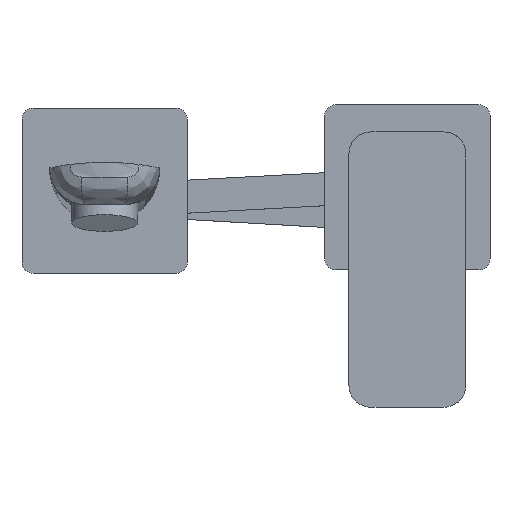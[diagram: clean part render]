
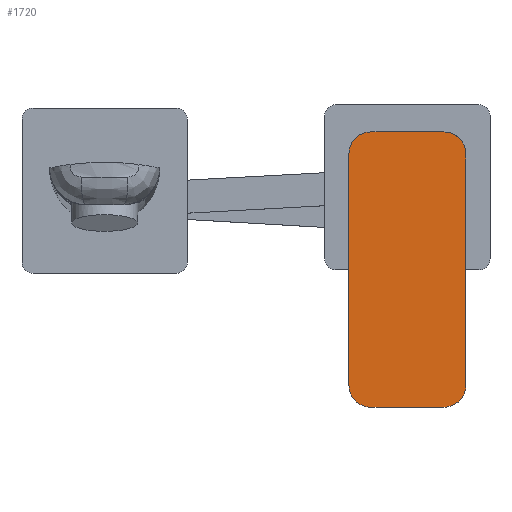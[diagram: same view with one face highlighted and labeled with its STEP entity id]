
A CAD part, top view. The second image highlights one B-rep face of the part: STEP entity #1720.
In plain terms, the highlighted planar face has unit normal (0, 0, 1).
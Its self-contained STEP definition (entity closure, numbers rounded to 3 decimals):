
#91=LINE('',#2615,#225);
#92=LINE('',#2620,#226);
#93=LINE('',#2624,#227);
#94=LINE('',#2627,#228);
#225=VECTOR('',#2079,10.);
#226=VECTOR('',#2084,10.);
#227=VECTOR('',#2087,10.);
#228=VECTOR('',#2090,10.);
#389=FACE_OUTER_BOUND('',#491,.T.);
#491=EDGE_LOOP('',(#1166,#1167,#1168,#1169,#1170,#1171,#1172,#1173));
#610=CIRCLE('',#1854,8.);
#611=CIRCLE('',#1857,8.);
#612=CIRCLE('',#1858,8.);
#613=CIRCLE('',#1859,8.);
#706=VERTEX_POINT('',#2601);
#707=VERTEX_POINT('',#2602);
#711=VERTEX_POINT('',#2613);
#712=VERTEX_POINT('',#2617);
#713=VERTEX_POINT('',#2619);
#714=VERTEX_POINT('',#2621);
#715=VERTEX_POINT('',#2623);
#716=VERTEX_POINT('',#2625);
#886=EDGE_CURVE('',#706,#707,#610,.T.);
#893=EDGE_CURVE('',#707,#711,#91,.T.);
#894=EDGE_CURVE('',#711,#712,#611,.T.);
#895=EDGE_CURVE('',#712,#713,#92,.T.);
#896=EDGE_CURVE('',#713,#714,#612,.T.);
#897=EDGE_CURVE('',#714,#715,#93,.T.);
#898=EDGE_CURVE('',#715,#716,#613,.T.);
#899=EDGE_CURVE('',#706,#716,#94,.T.);
#1166=ORIENTED_EDGE('',*,*,#886,.T.);
#1167=ORIENTED_EDGE('',*,*,#893,.T.);
#1168=ORIENTED_EDGE('',*,*,#894,.T.);
#1169=ORIENTED_EDGE('',*,*,#895,.T.);
#1170=ORIENTED_EDGE('',*,*,#896,.T.);
#1171=ORIENTED_EDGE('',*,*,#897,.T.);
#1172=ORIENTED_EDGE('',*,*,#898,.T.);
#1173=ORIENTED_EDGE('',*,*,#899,.F.);
#1654=PLANE('',#1856);
#1720=ADVANCED_FACE('',(#389),#1654,.F.);
#1854=AXIS2_PLACEMENT_3D('',#2603,#2069,#2070);
#1856=AXIS2_PLACEMENT_3D('',#2616,#2080,#2081);
#1857=AXIS2_PLACEMENT_3D('',#2618,#2082,#2083);
#1858=AXIS2_PLACEMENT_3D('',#2622,#2085,#2086);
#1859=AXIS2_PLACEMENT_3D('',#2626,#2088,#2089);
#2069=DIRECTION('center_axis',(0.,0.,
1.));
#2070=DIRECTION('ref_axis',(0.707,-0.707,0.));
#2079=DIRECTION('',(0.,1.,0.));
#2080=DIRECTION('center_axis',(0.,0.,
-1.));
#2081=DIRECTION('ref_axis',(0.,-1.,0.));
#2082=DIRECTION('center_axis',(0.,0.,
1.));
#2083=DIRECTION('ref_axis',(0.707,0.707,0.));
#2084=DIRECTION('',(-1.,0.,0.));
#2085=DIRECTION('center_axis',(0.,0.,
1.));
#2086=DIRECTION('ref_axis',(-0.707,0.707,0.));
#2087=DIRECTION('',(0.,-1.,0.));
#2088=DIRECTION('center_axis',(0.,0.,
1.));
#2089=DIRECTION('ref_axis',(-0.707,-0.707,0.));
#2090=DIRECTION('',(-1.,0.,0.));
#2601=CARTESIAN_POINT('',(65.25,103.25,78.));
#2602=CARTESIAN_POINT('',(73.25,111.25,78.));
#2603=CARTESIAN_POINT('Origin',(65.25,111.25,78.));
#2613=CARTESIAN_POINT('',(73.25,195.25,78.));
#2615=CARTESIAN_POINT('',(73.25,203.25,78.));
#2616=CARTESIAN_POINT('Origin',(52.,203.25,78.));
#2617=CARTESIAN_POINT('',(65.25,203.25,78.));
#2618=CARTESIAN_POINT('Origin',(65.25,195.25,78.));
#2619=CARTESIAN_POINT('',(38.75,203.25,78.));
#2620=CARTESIAN_POINT('',(52.,203.25,78.));
#2621=CARTESIAN_POINT('',(30.75,195.25,78.));
#2622=CARTESIAN_POINT('Origin',(38.75,195.25,78.));
#2623=CARTESIAN_POINT('',(30.75,111.25,78.));
#2624=CARTESIAN_POINT('',(30.75,203.25,78.));
#2625=CARTESIAN_POINT('',(38.75,103.25,78.));
#2626=CARTESIAN_POINT('Origin',(38.75,111.25,78.));
#2627=CARTESIAN_POINT('',(52.,103.25,78.));
